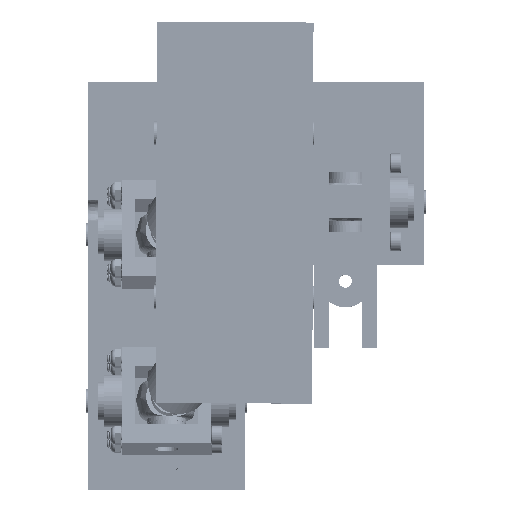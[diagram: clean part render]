
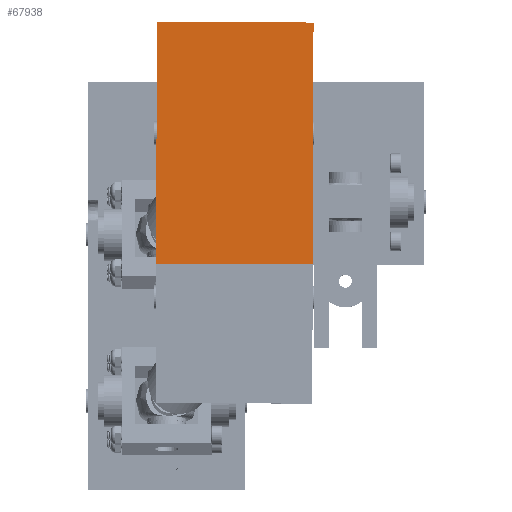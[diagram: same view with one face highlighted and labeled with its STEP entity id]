
A CAD part, top view. The second image highlights one B-rep face of the part: STEP entity #67938.
In plain terms, the highlighted planar face has unit normal (0, 0, 1) as drawn and (0, 0, -1) by its records, which use the part's own axes.
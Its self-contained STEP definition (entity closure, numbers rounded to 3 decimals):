
#8254=PLANE('',#74115);
#10276=FACE_OUTER_BOUND('',#14587,.T.);
#14587=EDGE_LOOP('',(#50883,#50884,#50885,#50886));
#18811=LINE('',#160649,#22068);
#18818=LINE('',#160662,#22075);
#18819=LINE('',#160665,#22076);
#18820=LINE('',#160666,#22077);
#22068=VECTOR('',#83459,10.);
#22075=VECTOR('',#83468,10.);
#22076=VECTOR('',#83471,10.);
#22077=VECTOR('',#83472,10.);
#28477=VERTEX_POINT('',#160646);
#28478=VERTEX_POINT('',#160648);
#28483=VERTEX_POINT('',#160660);
#28484=VERTEX_POINT('',#160664);
#36559=EDGE_CURVE('',#28477,#28478,#18811,.T.);
#36566=EDGE_CURVE('',#28483,#28477,#18818,.T.);
#36567=EDGE_CURVE('',#28483,#28484,#18819,.T.);
#36568=EDGE_CURVE('',#28484,#28478,#18820,.T.);
#50883=ORIENTED_EDGE('',*,*,#36566,.F.);
#50884=ORIENTED_EDGE('',*,*,#36567,.T.);
#50885=ORIENTED_EDGE('',*,*,#36568,.T.);
#50886=ORIENTED_EDGE('',*,*,#36559,.F.);
#67938=ADVANCED_FACE('',(#10276),#8254,.F.);
#74115=AXIS2_PLACEMENT_3D('',#160663,#83469,#83470);
#83459=DIRECTION('',(1.,0.004,0.));
#83468=DIRECTION('',(0.004,-1.,0.));
#83469=DIRECTION('center_axis',(0.,0.,
1.));
#83470=DIRECTION('ref_axis',(1.,0.,0.));
#83471=DIRECTION('',(1.,0.004,0.));
#83472=DIRECTION('',(0.004,-1.,0.));
#160646=CARTESIAN_POINT('',(-298.828,102.259,-74.08));
#160648=CARTESIAN_POINT('',(-274.749,102.346,-74.08));
#160649=CARTESIAN_POINT('',(-274.749,102.346,-74.08));
#160660=CARTESIAN_POINT('',(-298.963,139.448,-74.08));
#160662=CARTESIAN_POINT('',(-298.925,128.948,-74.08));
#160663=CARTESIAN_POINT('Origin',(-286.849,119.147,-74.08));
#160664=CARTESIAN_POINT('',(-274.883,139.535,-74.08));
#160665=CARTESIAN_POINT('',(-286.923,139.491,-74.08));
#160666=CARTESIAN_POINT('',(-274.845,129.035,-74.08));
